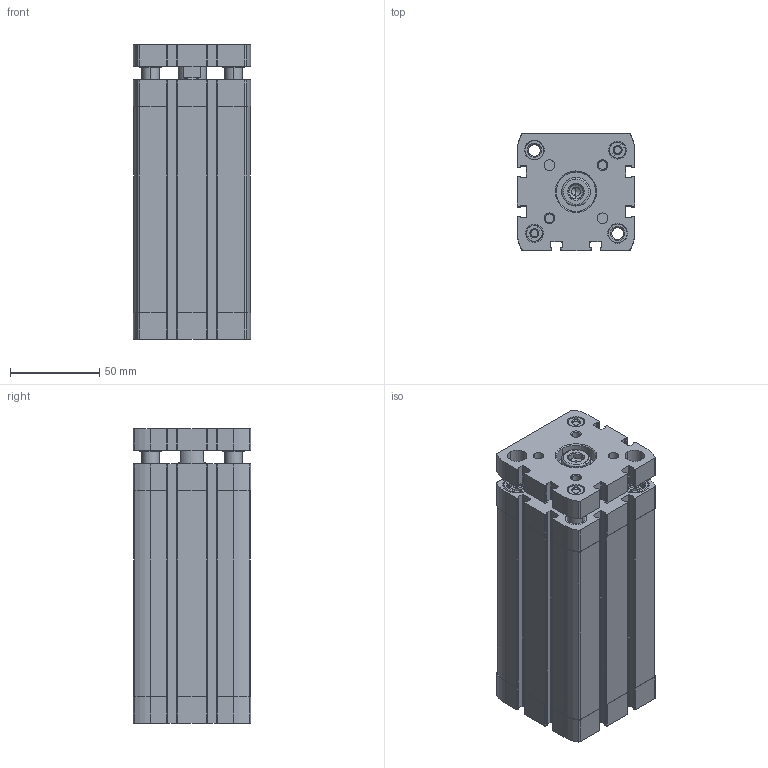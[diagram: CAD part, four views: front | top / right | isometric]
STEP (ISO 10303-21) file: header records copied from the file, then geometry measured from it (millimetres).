
FILE_DESCRIPTION (( 'STEP AP203' ), '1' );
FILE_NAME ('CCNG50-100.STEP', '2017-04-20T14:06:01', ( '' ), ( '' ), 'SwSTEP 2.0', 'SolidWorks 2016', '' );
FILE_SCHEMA (( 'CONFIG_CONTROL_DESIGN' ));
Length unit declared in the file: millimetre
Products named in the file (3): CCNG-50-100----(KS); CCNG50-100; CCNG-50-100----(Z)
Assembly tree (2 placements, depth 2):
  CCNG50-100
    CCNG-50-100----(Z)
    CCNG-50-100----(KS)
Bounding box: 65.5 x 65.5 x 164.7 mm (x, y, z)
Volume: 427292.1 mm3; surface area: 132402.5 mm2
Topology: 2 solids, 4 shells, 714 faces, 1924 edges, 1261 vertices
Faces by surface type: plane 358, cylinder 278, cone 72, bspline 6
Entity records: 23131 total; most frequent: CARTESIAN_POINT 4438, DIRECTION 3960, ORIENTED_EDGE 3844, EDGE_CURVE 1922, AXIS2_PLACEMENT_3D 1459, VERTEX_POINT 1261, VECTOR 1042, LINE 1042
